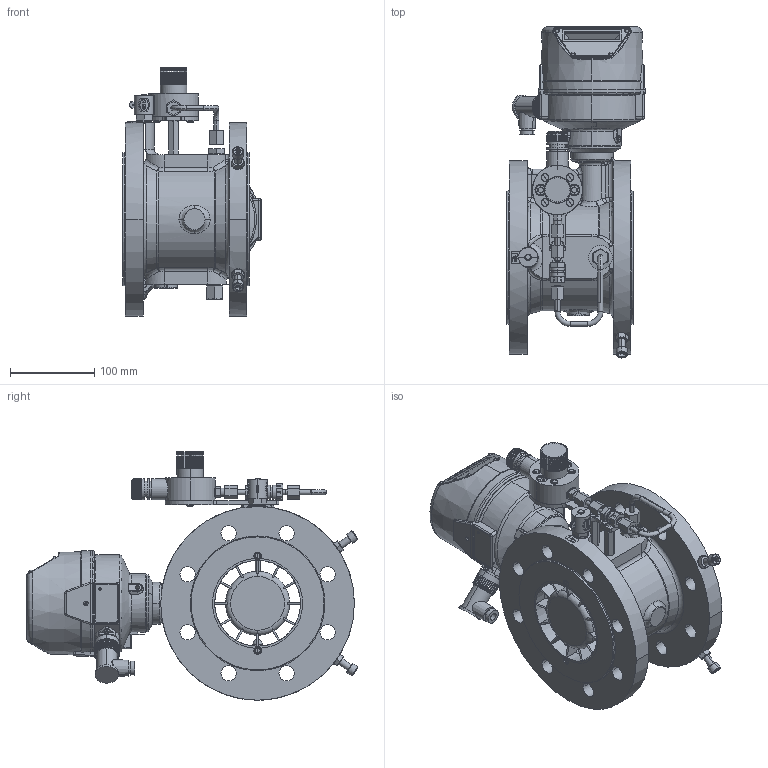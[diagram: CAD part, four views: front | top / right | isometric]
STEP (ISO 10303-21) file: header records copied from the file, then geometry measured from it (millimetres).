
FILE_DESCRIPTION((''),'2;1');
FILE_NAME('063822_1_L_SW0001','2018-12-03T12:13:59',('R74676'),(''),'CREO PARAMETRIC BY PTC INC, 2017380','CREO PARAMETRIC BY PTC INC, 2017380','');
FILE_SCHEMA(('CONFIG_CONTROL_DESIGN','SHAPE_APPEARANCE_LAYERS_GROUPS'));
Products named in the file (1): 063822_1_L_SW0001
Bounding box: 164 x 394.22 x 295.05 mm (x, y, z)
Surface area: 506078.9 mm2 (no closed solid volume)
Topology: 0 solids, 125 shells, 1113 faces, 4764 edges, 3575 vertices
Faces by surface type: plane 491, cylinder 321, cone 114, bspline 89, torus 74, sphere 24
Entity records: 80015 total; most frequent: CARTESIAN_POINT 21415, DIRECTION 7274, ORIENTED_EDGE 6971, PRESENTATION_STYLE_ASSIGNMENT 5789, STYLED_ITEM 4793, CURVE_STYLE 4750, EDGE_CURVE 4750, VERTEX_POINT 3575
